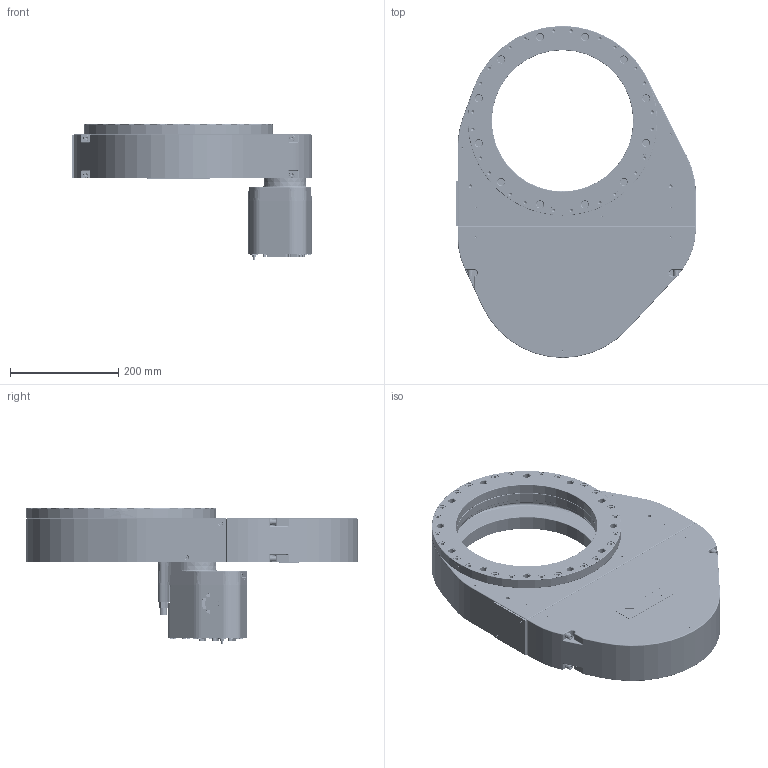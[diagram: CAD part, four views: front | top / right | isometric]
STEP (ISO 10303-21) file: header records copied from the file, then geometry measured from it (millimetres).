
FILE_DESCRIPTION(/* description */ (''),/* implementation_level */ '2;1');
FILE_NAME(/* name */ '1247062225_203.stp',/* time_stamp */ '2024-06-27T17:09:08+08:00',/* author */ (''),/* organization */ (''),/* preprocessor_version */ 'ST-DEVELOPER v19.3',/* originating_system */ 'SIEMENS PLM Software NX2212.6000',/* authorisation */ '');
FILE_SCHEMA (('AP203_CONFIGURATION_CONTROLLED_3D_DESIGN_OF_MECHANICAL_PARTS_AND_ASSEMBLIES_MIM_LF { 1 0 10303 403 2 1 2}'));
Products named in the file (50): 915542; 1062830; 1062211_37838ID; 1062217; n-6053-409.2; n-6171-408.1; 507510; 930887; 1062837; 1062205; 223868.1; 1062209; 1062215; 915758; 1062236_37794ID; 325243.3; 259932_3.2; 259932_2.3; 259932_1.3; 259932_4.2; 904475; 1062241; 1062232; 736900; 877855; 952106; N-6090-119.1; N-6091-505.1; 938726; 950716; 206044.2; 206036.2; 955261; 444307; 958026; 366217; 930837; 228777; 940266; 1062829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
Assembly tree (122 placements, depth 5):
  1297245
    950715
      950716
      938726  x2
      N-6091-505.1  x2
      N-6090-119.1  x12
    940266
    950746
      N-6090-119.1  x12
      952106
    228777  x24
    949709_NX-ARRAGMNTopen
      877855
      736900  x4
      1062237
        1062236_37794ID
      1062232
      1062241
      904475
    930837
    366217
    259932.6_NX-ARRAGMNTZUSAMMENST1
      259932_4.2
      259932_1.3
      259932_2.3
      259932_3.2
    958026  x2
    930908
      325243.3  x4
      1062219
        915758
        1062215
      917030
        1062209
        1062214_MODEL
          1062211_37838ID
        325243.3  x4
        223868.1  x2
        1062205
        1062829
          1062830
          915542
        1062837
        930887  x6
        507510
        n-6171-408.1
        n-6053-409.2
        1062217
        1062215
    444307  x2
    955261
    206036.2  x4
    206044.2  x4
Bounding box: 443 x 613 x 250.5 mm (x, y, z)
Volume: 12444000.1 mm3; surface area: 1266116.7 mm2
Topology: 210 solids, 210 shells, 3293 faces, 7784 edges, 5164 vertices
Faces by surface type: plane 1776, cylinder 993, cone 275, extrusion 97, torus 88, bspline 39, sphere 25
Full cylindrical faces by diameter (mm): 0.7 x15, 1.1 x40, 2 x74, 2.5 x7, 2.9 x6, 3 x10, 3.2 x9, 3.25 x1, 3.26 x2, 3.3 x28, 3.5 x22, 3.96 x2, 4 x7, 4.02 x2, 4.05 x1, 4.16 x2, 4.2 x6, 4.3 x2, 4.4 x2, 4.5 x5, 4.725 x1, 4.8 x4, 4.96 x12, 4.991 x2, 5 x27, 5.075 x1, 5.1 x1, 5.165 x2, 5.9 x1, 5.991 x2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
Entity records: 77163 total; most frequent: CARTESIAN_POINT 15863, DIRECTION 10736, ORIENTED_EDGE 10020, EDGE_CURVE 5010, AXIS2_PLACEMENT_3D 4057, VERTEX_POINT 3828, EDGE_LOOP 3703, VECTOR 2622
